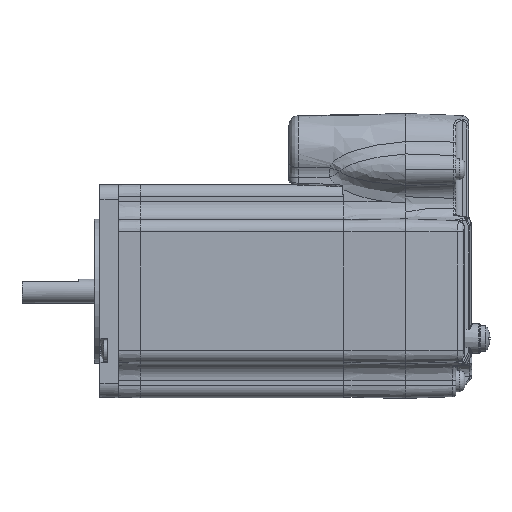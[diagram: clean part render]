
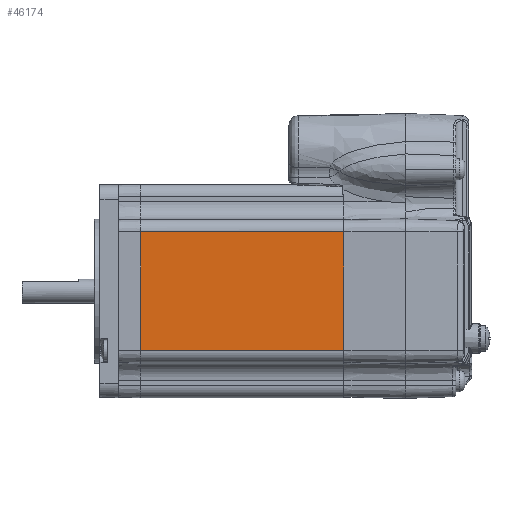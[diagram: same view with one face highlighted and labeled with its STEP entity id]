
A CAD part, left-side view. The second image highlights one B-rep face of the part: STEP entity #46174.
In plain terms, the highlighted planar face has unit normal (-1, 0, 0).
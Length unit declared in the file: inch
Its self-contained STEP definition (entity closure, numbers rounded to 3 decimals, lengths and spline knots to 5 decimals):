
#45151=CARTESIAN_POINT('',(-1.96424,3.78541,-0.67064));
#45152=VERTEX_POINT('',#45151);
#45183=CARTESIAN_POINT('',(-1.96424,3.78541,0.56486));
#45184=VERTEX_POINT('',#45183);
#45185=CARTESIAN_POINT('',(-1.96424,3.78541,0.28689));
#45186=DIRECTION('',(0.,0.,-1.));
#45187=VECTOR('',#45186,1.);
#45188=LINE('',#45185,#45187);
#45189=EDGE_CURVE('',#45184,#45152,#45188,.T.);
#46118=CARTESIAN_POINT('',(-1.96424,1.67113,-0.67064));
#46119=VERTEX_POINT('',#46118);
#46120=CARTESIAN_POINT('',(-1.96424,1.68113,-0.67064));
#46121=DIRECTION('',(0.,1.,0.));
#46122=VECTOR('',#46121,1.);
#46123=LINE('',#46120,#46122);
#46124=EDGE_CURVE('',#46119,#45152,#46123,.T.);
#46151=CARTESIAN_POINT('',(-1.96424,1.67113,0.56486));
#46152=VERTEX_POINT('',#46151);
#46153=CARTESIAN_POINT('',(-1.96424,1.68113,0.56486));
#46154=DIRECTION('',(0.,-1.,0.));
#46155=VECTOR('',#46154,1.);
#46156=LINE('',#46153,#46155);
#46157=EDGE_CURVE('',#45184,#46152,#46156,.T.);
#46158=ORIENTED_EDGE('',*,*,#46157,.F.);
#46159=ORIENTED_EDGE('',*,*,#45189,.T.);
#46160=ORIENTED_EDGE('',*,*,#46124,.F.);
#46161=CARTESIAN_POINT('',(-1.96424,1.67113,0.28689));
#46162=DIRECTION('',(0.,0.,1.));
#46163=VECTOR('',#46162,1.);
#46164=LINE('',#46161,#46163);
#46165=EDGE_CURVE('',#46119,#46152,#46164,.T.);
#46166=ORIENTED_EDGE('',*,*,#46165,.T.);
#46167=EDGE_LOOP('',(#46158,#46159,#46160,#46166));
#46168=FACE_OUTER_BOUND('',#46167,.T.);
#46169=CARTESIAN_POINT('',(-1.96424,1.68113,0.62667));
#46170=DIRECTION('',(-1.,0.,0.));
#46171=DIRECTION('',(0.,0.,1.));
#46172=AXIS2_PLACEMENT_3D('',#46169,#46170,#46171);
#46173=PLANE('',#46172);
#46174=ADVANCED_FACE('',(#46168),#46173,.T.);
